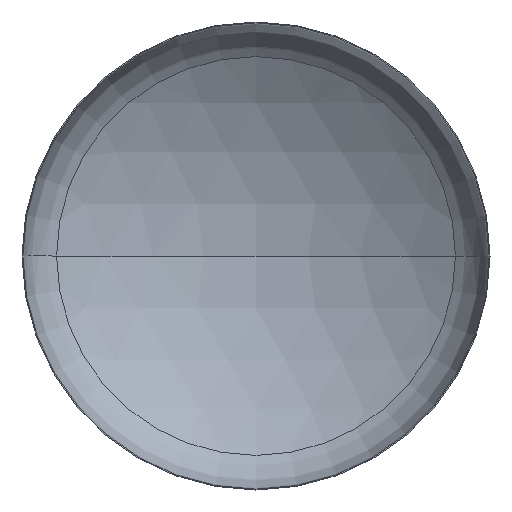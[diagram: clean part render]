
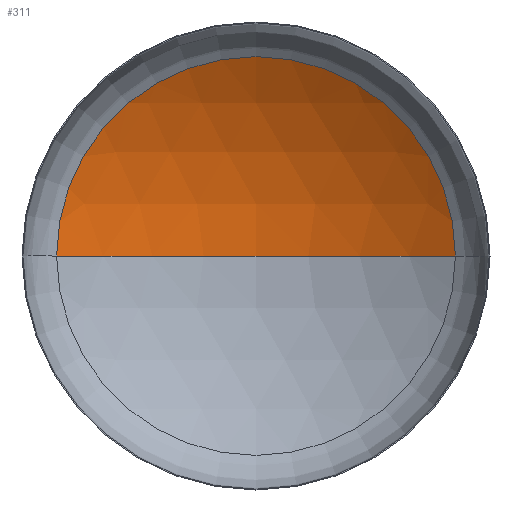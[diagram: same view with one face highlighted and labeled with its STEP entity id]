
A CAD part, front view. The second image highlights one B-rep face of the part: STEP entity #311.
In plain terms, the highlighted spherical face has radius 2880 mm.
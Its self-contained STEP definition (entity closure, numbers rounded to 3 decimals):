
#3 = EDGE_LOOP ( 'NONE', ( #25, #119, #77 ) ) ;
#7 = AXIS2_PLACEMENT_3D ( 'NONE', #335, #184, #364 ) ;
#9 = AXIS2_PLACEMENT_3D ( 'NONE', #228, #98, #168 ) ;
#25 = ORIENTED_EDGE ( 'NONE', *, *, #362, .F. ) ;
#28 = CIRCLE ( 'NONE', #236, 1533.523 ) ;
#30 = VERTEX_POINT ( 'NONE', #373 ) ;
#32 = AXIS2_PLACEMENT_3D ( 'NONE', #106, #182, #89 ) ;
#77 = ORIENTED_EDGE ( 'NONE', *, *, #390, .T. ) ;
#87 = SPHERICAL_SURFACE ( 'NONE', #32, 2880. ) ;
#89 = DIRECTION ( 'NONE',  ( -1., 0., 0. ) ) ;
#90 = VERTEX_POINT ( 'NONE', #242 ) ;
#98 = DIRECTION ( 'NONE',  ( 0., 0., 1. ) ) ;
#106 = CARTESIAN_POINT ( 'NONE',  ( 0., -1942.989, 0. ) ) ;
#119 = ORIENTED_EDGE ( 'NONE', *, *, #377, .T. ) ;
#128 = DIRECTION ( 'NONE',  ( 1., 0., 0. ) ) ;
#133 = VERTEX_POINT ( 'NONE', #187 ) ;
#168 = DIRECTION ( 'NONE',  ( 1., 0., 0. ) ) ;
#182 = DIRECTION ( 'NONE',  ( 0., 0., -1. ) ) ;
#184 = DIRECTION ( 'NONE',  ( 0., 0., -1. ) ) ;
#187 = CARTESIAN_POINT ( 'NONE',  ( 1533.523, 494.778, 0. ) ) ;
#228 = CARTESIAN_POINT ( 'NONE',  ( 0., -1942.989, 0. ) ) ;
#236 = AXIS2_PLACEMENT_3D ( 'NONE', #270, #271, #128 ) ;
#240 = CIRCLE ( 'NONE', #9, 2880. ) ;
#242 = CARTESIAN_POINT ( 'NONE',  ( 0., 937.011, 0. ) ) ;
#252 = FACE_OUTER_BOUND ( 'NONE', #3, .T. ) ;
#270 = CARTESIAN_POINT ( 'NONE',  ( 0., 494.778, 0. ) ) ;
#271 = DIRECTION ( 'NONE',  ( 0., -1., 0. ) ) ;
#311 = ADVANCED_FACE ( 'NONE', ( #252 ), #87, .F. ) ;
#335 = CARTESIAN_POINT ( 'NONE',  ( 0., -1942.989, 0. ) ) ;
#362 = EDGE_CURVE ( 'NONE', #90, #30, #240, .T. ) ;
#364 = DIRECTION ( 'NONE',  ( -1., 0., 0. ) ) ;
#370 = CIRCLE ( 'NONE', #7, 2880. ) ;
#373 = CARTESIAN_POINT ( 'NONE',  ( -1533.523, 494.778, 0. ) ) ;
#377 = EDGE_CURVE ( 'NONE', #90, #133, #370, .T. ) ;
#390 = EDGE_CURVE ( 'NONE', #133, #30, #28, .T. ) ;
